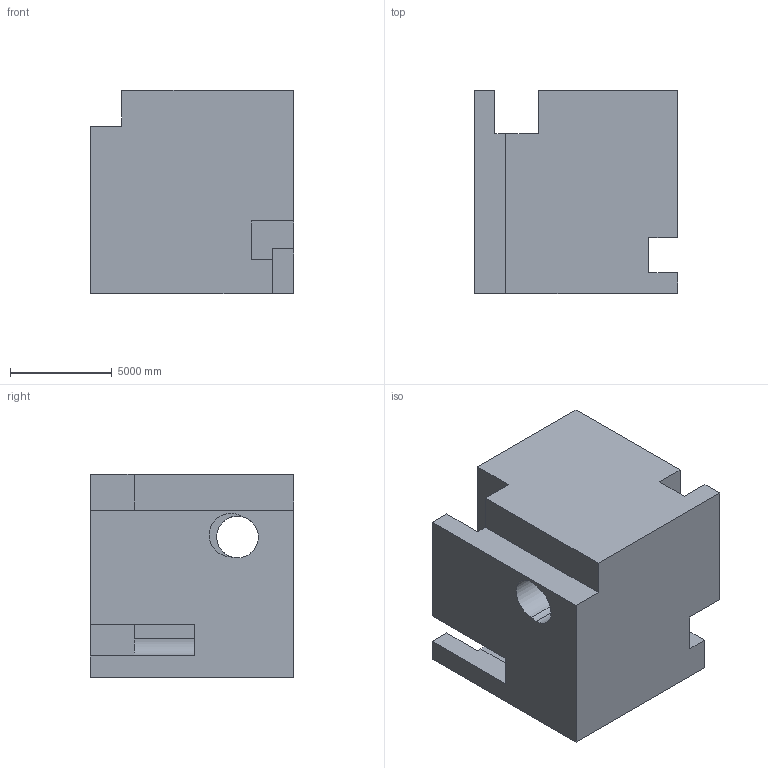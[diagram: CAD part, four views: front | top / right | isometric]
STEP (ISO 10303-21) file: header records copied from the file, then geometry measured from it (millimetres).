
FILE_DESCRIPTION (( 'STEP AP203' ), '1' );
FILE_NAME ('972.STEP', '2022-07-29T14:49:52', ( 'user' ), ( '' ), 'SwSTEP 2.0', 'SolidWorks 2021', '' );
FILE_SCHEMA (( 'CONFIG_CONTROL_DESIGN' ));
Length unit declared in the file: centimetre
Products named in the file (1): 972
Bounding box: 10000 x 10000 x 10000 mm (x, y, z)
Volume: 808550373349.6 mm3; surface area: 749865017.5 mm2
Topology: 1 solids, 1 shells, 51 faces, 147 edges, 98 vertices
Faces by surface type: plane 46, cylinder 5
Entity records: 1736 total; most frequent: CARTESIAN_POINT 297, ORIENTED_EDGE 294, DIRECTION 265, EDGE_CURVE 147, VECTOR 133, LINE 133, VERTEX_POINT 98, AXIS2_PLACEMENT_3D 66
